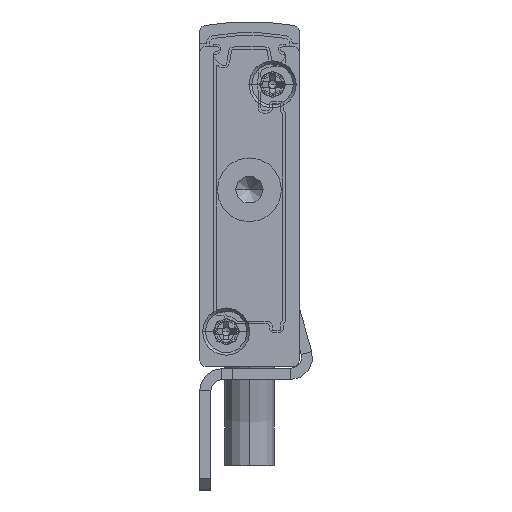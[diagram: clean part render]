
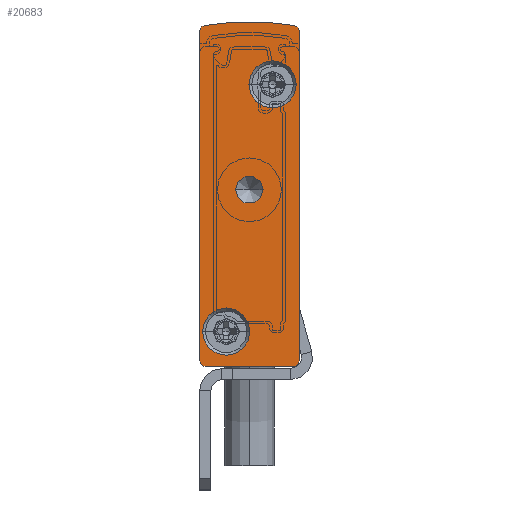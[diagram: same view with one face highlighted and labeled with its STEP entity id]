
A CAD part, front view. The second image highlights one B-rep face of the part: STEP entity #20683.
In plain terms, the highlighted planar face has unit normal (0, -1, 0).
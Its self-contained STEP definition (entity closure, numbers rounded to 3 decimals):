
#109 = FACE_BOUND ( 'NONE', #3420, .T. ) ;
#340 = CARTESIAN_POINT ( 'NONE',  ( -5.75, -2.5, 16. ) ) ;
#459 = CIRCLE ( 'NONE', #24642, 2.15 ) ;
#471 = ORIENTED_EDGE ( 'NONE', *, *, #8684, .F. ) ;
#652 = CARTESIAN_POINT ( 'NONE',  ( -4.55, -2.5, 25.55 ) ) ;
#956 = VERTEX_POINT ( 'NONE', #23589 ) ;
#1056 = EDGE_CURVE ( 'NONE', #25292, #13165, #25360, .T. ) ;
#1136 = VECTOR ( 'NONE', #12957, 1000. ) ;
#1192 = ORIENTED_EDGE ( 'NONE', *, *, #1056, .F. ) ;
#1776 = DIRECTION ( 'NONE',  ( 0., 1., 0. ) ) ;
#1812 = DIRECTION ( 'NONE',  ( 0., -1., 0. ) ) ;
#2050 = DIRECTION ( 'NONE',  ( 0., 1., 0. ) ) ;
#2143 = EDGE_CURVE ( 'NONE', #14126, #17094, #15450, .T. ) ;
#2261 = CARTESIAN_POINT ( 'NONE',  ( -4.5, -2.5, 7.592 ) ) ;
#2418 = CARTESIAN_POINT ( 'NONE',  ( -8.5, -2.5, 0. ) ) ;
#2551 = CARTESIAN_POINT ( 'NONE',  ( -8.5, -2.5, 30.402 ) ) ;
#2561 = EDGE_LOOP ( 'NONE', ( #19957, #9074 ) ) ;
#2604 = CIRCLE ( 'NONE', #12316, 0.5 ) ;
#2905 = EDGE_CURVE ( 'NONE', #23395, #11653, #15380, .T. ) ;
#2987 = EDGE_CURVE ( 'NONE', #11653, #5241, #6626, .T. ) ;
#3055 = VERTEX_POINT ( 'NONE', #652 ) ;
#3192 = ORIENTED_EDGE ( 'NONE', *, *, #20587, .T. ) ;
#3420 = EDGE_LOOP ( 'NONE', ( #8816, #1192 ) ) ;
#3568 = DIRECTION ( 'NONE',  ( 0., -1., 0. ) ) ;
#3608 = LINE ( 'NONE', #20712, #1136 ) ;
#3896 = VERTEX_POINT ( 'NONE', #15884 ) ;
#3934 = VECTOR ( 'NONE', #6315, 1000. ) ;
#4121 = FACE_OUTER_BOUND ( 'NONE', #25616, .T. ) ;
#4127 = DIRECTION ( 'NONE',  ( 1., 0., 0. ) ) ;
#4317 = CARTESIAN_POINT ( 'NONE',  ( -8.5, -2.5, 0.5 ) ) ;
#4597 = AXIS2_PLACEMENT_3D ( 'NONE', #6372, #8398, #10487 ) ;
#4598 = AXIS2_PLACEMENT_3D ( 'NONE', #5904, #19891, #7948 ) ;
#5241 = VERTEX_POINT ( 'NONE', #23105 ) ;
#5492 = CARTESIAN_POINT ( 'NONE',  ( -3.25, -2.5, 16. ) ) ;
#5543 = AXIS2_PLACEMENT_3D ( 'NONE', #17931, #1776, #17844 ) ;
#5904 = CARTESIAN_POINT ( 'NONE',  ( -8.5, -2.5, 30.402 ) ) ;
#6067 = LINE ( 'NONE', #14561, #23573 ) ;
#6315 = DIRECTION ( 'NONE',  ( -1., 0., 0. ) ) ;
#6372 = CARTESIAN_POINT ( 'NONE',  ( -4.5, -2.5, 16. ) ) ;
#6626 = CIRCLE ( 'NONE', #11980, 23.658 ) ;
#6644 = ORIENTED_EDGE ( 'NONE', *, *, #2143, .T. ) ;
#6865 = CARTESIAN_POINT ( 'NONE',  ( -0.5, -2.5, 30.402 ) ) ;
#7240 = ORIENTED_EDGE ( 'NONE', *, *, #16116, .F. ) ;
#7265 = FACE_BOUND ( 'NONE', #2561, .T. ) ;
#7278 = CIRCLE ( 'NONE', #8555, 2.15 ) ;
#7376 = CARTESIAN_POINT ( 'NONE',  ( -9., -2.5, 0.5 ) ) ;
#7897 = CARTESIAN_POINT ( 'NONE',  ( -6.6, -2.5, 3.15 ) ) ;
#7913 = ORIENTED_EDGE ( 'NONE', *, *, #18395, .F. ) ;
#7948 = DIRECTION ( 'NONE',  ( -1., 0., 0. ) ) ;
#8230 = ORIENTED_EDGE ( 'NONE', *, *, #2905, .F. ) ;
#8281 = VERTEX_POINT ( 'NONE', #16600 ) ;
#8398 = DIRECTION ( 'NONE',  ( 0., 1., 0. ) ) ;
#8555 = AXIS2_PLACEMENT_3D ( 'NONE', #13725, #1812, #15737 ) ;
#8684 = EDGE_CURVE ( 'NONE', #3896, #18024, #8932, .T. ) ;
#8816 = ORIENTED_EDGE ( 'NONE', *, *, #19259, .F. ) ;
#8898 = DIRECTION ( 'NONE',  ( -1., 0., 0. ) ) ;
#8932 = LINE ( 'NONE', #16588, #3934 ) ;
#9074 = ORIENTED_EDGE ( 'NONE', *, *, #17232, .F. ) ;
#9549 = EDGE_CURVE ( 'NONE', #20122, #23395, #6067, .T. ) ;
#9563 = DIRECTION ( 'NONE',  ( 0., -1., 0. ) ) ;
#9736 = EDGE_CURVE ( 'NONE', #956, #3055, #20728, .T. ) ;
#9976 = ORIENTED_EDGE ( 'NONE', *, *, #23555, .F. ) ;
#10092 = DIRECTION ( 'NONE',  ( -1., 0., 0. ) ) ;
#10217 = PLANE ( 'NONE',  #11456 ) ;
#10378 = EDGE_CURVE ( 'NONE', #5241, #8281, #2604, .T. ) ;
#10385 = DIRECTION ( 'NONE',  ( 0., 1., 0. ) ) ;
#10487 = DIRECTION ( 'NONE',  ( -1., 0., 0. ) ) ;
#10955 = AXIS2_PLACEMENT_3D ( 'NONE', #13456, #21213, #15295 ) ;
#11216 = DIRECTION ( 'NONE',  ( 1., 0., 0. ) ) ;
#11456 = AXIS2_PLACEMENT_3D ( 'NONE', #2551, #12638, #22763 ) ;
#11653 = VERTEX_POINT ( 'NONE', #18585 ) ;
#11980 = AXIS2_PLACEMENT_3D ( 'NONE', #2261, #10385, #16194 ) ;
#12316 = AXIS2_PLACEMENT_3D ( 'NONE', #6865, #22567, #8898 ) ;
#12363 = CIRCLE ( 'NONE', #22538, 0.5 ) ;
#12638 = DIRECTION ( 'NONE',  ( 0., 1., 0. ) ) ;
#12814 = EDGE_LOOP ( 'NONE', ( #3192, #6644 ) ) ;
#12957 = DIRECTION ( 'NONE',  ( 0., 0., -1. ) ) ;
#13165 = VERTEX_POINT ( 'NONE', #23267 ) ;
#13456 = CARTESIAN_POINT ( 'NONE',  ( -4.5, -2.5, 16. ) ) ;
#13618 = CARTESIAN_POINT ( 'NONE',  ( -9., -2.5, 30.402 ) ) ;
#13725 = CARTESIAN_POINT ( 'NONE',  ( -6.6, -2.5, 3.15 ) ) ;
#14126 = VERTEX_POINT ( 'NONE', #5492 ) ;
#14561 = CARTESIAN_POINT ( 'NONE',  ( -9., -2.5, 30.402 ) ) ;
#14595 = CARTESIAN_POINT ( 'NONE',  ( -8.75, -2.5, 3.15 ) ) ;
#15214 = ORIENTED_EDGE ( 'NONE', *, *, #2987, .F. ) ;
#15295 = DIRECTION ( 'NONE',  ( -1., 0., 0. ) ) ;
#15345 = FACE_BOUND ( 'NONE', #12814, .T. ) ;
#15380 = CIRCLE ( 'NONE', #4598, 0.5 ) ;
#15387 = CIRCLE ( 'NONE', #4597, 1.25 ) ;
#15450 = CIRCLE ( 'NONE', #10955, 1.25 ) ;
#15737 = DIRECTION ( 'NONE',  ( 1., 0., 0. ) ) ;
#15884 = CARTESIAN_POINT ( 'NONE',  ( -0.5, -2.5, 0. ) ) ;
#15984 = DIRECTION ( 'NONE',  ( 0., -1., 0. ) ) ;
#16005 = CIRCLE ( 'NONE', #5543, 0.5 ) ;
#16116 = EDGE_CURVE ( 'NONE', #18024, #20122, #12363, .T. ) ;
#16194 = DIRECTION ( 'NONE',  ( -1., 0., 0. ) ) ;
#16588 = CARTESIAN_POINT ( 'NONE',  ( -8.5, -2.5, 0. ) ) ;
#16600 = CARTESIAN_POINT ( 'NONE',  ( 0., -2.5, 30.402 ) ) ;
#16639 = ORIENTED_EDGE ( 'NONE', *, *, #10378, .F. ) ;
#17094 = VERTEX_POINT ( 'NONE', #340 ) ;
#17232 = EDGE_CURVE ( 'NONE', #3055, #956, #459, .T. ) ;
#17391 = DIRECTION ( 'NONE',  ( 1., 0., 0. ) ) ;
#17844 = DIRECTION ( 'NONE',  ( -1., 0., 0. ) ) ;
#17931 = CARTESIAN_POINT ( 'NONE',  ( -0.5, -2.5, 0.5 ) ) ;
#18024 = VERTEX_POINT ( 'NONE', #2418 ) ;
#18395 = EDGE_CURVE ( 'NONE', #8281, #19720, #3608, .T. ) ;
#18585 = CARTESIAN_POINT ( 'NONE',  ( -8.592, -2.5, 30.893 ) ) ;
#19259 = EDGE_CURVE ( 'NONE', #13165, #25292, #7278, .T. ) ;
#19358 = CARTESIAN_POINT ( 'NONE',  ( -2.4, -2.5, 25.55 ) ) ;
#19720 = VERTEX_POINT ( 'NONE', #20041 ) ;
#19891 = DIRECTION ( 'NONE',  ( 0., 1., 0. ) ) ;
#19957 = ORIENTED_EDGE ( 'NONE', *, *, #9736, .F. ) ;
#19990 = AXIS2_PLACEMENT_3D ( 'NONE', #19358, #3568, #17391 ) ;
#20041 = CARTESIAN_POINT ( 'NONE',  ( 0., -2.5, 0.5 ) ) ;
#20122 = VERTEX_POINT ( 'NONE', #7376 ) ;
#20309 = ORIENTED_EDGE ( 'NONE', *, *, #9549, .F. ) ;
#20587 = EDGE_CURVE ( 'NONE', #17094, #14126, #15387, .T. ) ;
#20683 = ADVANCED_FACE ( 'NONE', ( #7265, #109, #4121, #15345 ), #10217, .F. ) ;
#20712 = CARTESIAN_POINT ( 'NONE',  ( 0., -2.5, 30.402 ) ) ;
#20726 = DIRECTION ( 'NONE',  ( 0., 0., 1. ) ) ;
#20728 = CIRCLE ( 'NONE', #19990, 2.15 ) ;
#21213 = DIRECTION ( 'NONE',  ( 0., 1., 0. ) ) ;
#22538 = AXIS2_PLACEMENT_3D ( 'NONE', #4317, #2050, #10092 ) ;
#22567 = DIRECTION ( 'NONE',  ( 0., 1., 0. ) ) ;
#22763 = DIRECTION ( 'NONE',  ( -1., 0., 0. ) ) ;
#23105 = CARTESIAN_POINT ( 'NONE',  ( -0.408, -2.5, 30.893 ) ) ;
#23267 = CARTESIAN_POINT ( 'NONE',  ( -4.45, -2.5, 3.15 ) ) ;
#23395 = VERTEX_POINT ( 'NONE', #13618 ) ;
#23555 = EDGE_CURVE ( 'NONE', #19720, #3896, #16005, .T. ) ;
#23573 = VECTOR ( 'NONE', #20726, 1000. ) ;
#23582 = AXIS2_PLACEMENT_3D ( 'NONE', #7897, #15984, #4127 ) ;
#23589 = CARTESIAN_POINT ( 'NONE',  ( -0.25, -2.5, 25.55 ) ) ;
#24642 = AXIS2_PLACEMENT_3D ( 'NONE', #25312, #9563, #11216 ) ;
#25292 = VERTEX_POINT ( 'NONE', #14595 ) ;
#25312 = CARTESIAN_POINT ( 'NONE',  ( -2.4, -2.5, 25.55 ) ) ;
#25360 = CIRCLE ( 'NONE', #23582, 2.15 ) ;
#25616 = EDGE_LOOP ( 'NONE', ( #8230, #20309, #7240, #471, #9976, #7913, #16639, #15214 ) ) ;
